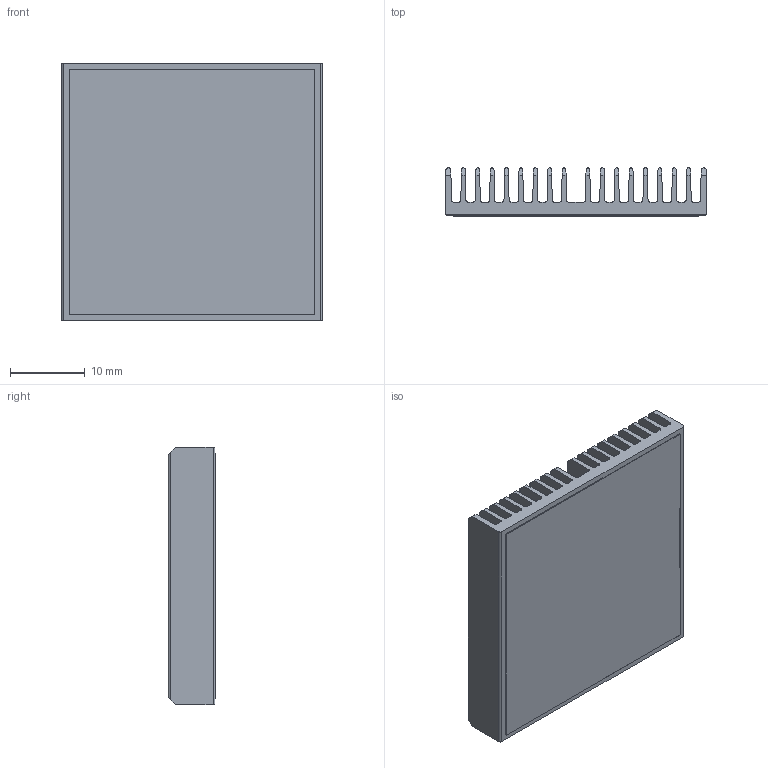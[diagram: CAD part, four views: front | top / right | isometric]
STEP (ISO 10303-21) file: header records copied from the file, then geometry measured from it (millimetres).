
FILE_DESCRIPTION (( 'STEP AP214' ), '1' );
FILE_NAME ('INL35001-6-1.7.STEP', '2023-02-23T23:51:52', ( '' ), ( '' ), 'SwSTEP 2.0', 'SolidWorks 2020', '' );
FILE_SCHEMA (( 'AUTOMOTIVE_DESIGN' ));
Length unit declared in the file: millimetre
Products named in the file (1): INL35001-6-1.7
Bounding box: 35 x 6.43 x 34.5 mm (x, y, z)
Volume: 3924.8 mm3; surface area: 10239.6 mm2
Topology: 2 solids, 2 shells, 152 faces, 444 edges, 296 vertices
Faces by surface type: plane 98, cylinder 54
Entity records: 6715 total; most frequent: CARTESIAN_POINT 1001, ORIENTED_EDGE 888, DIRECTION 786, EDGE_CURVE 444, VECTOR 336, LINE 336, VERTEX_POINT 296, AXIS2_PLACEMENT_3D 225
